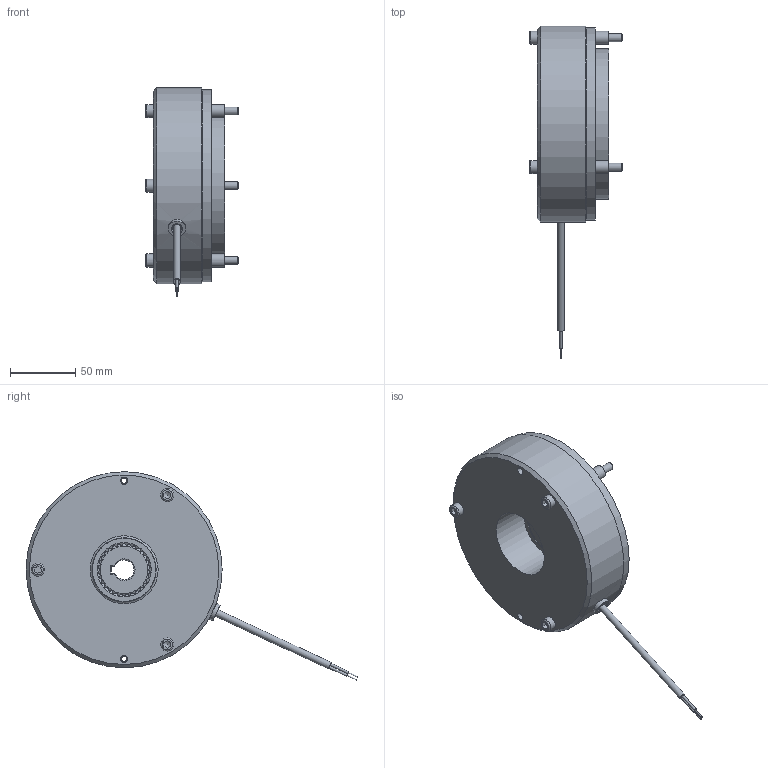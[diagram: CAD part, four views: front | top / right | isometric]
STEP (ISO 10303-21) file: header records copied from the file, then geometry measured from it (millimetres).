
FILE_DESCRIPTION(/* description */ (''),/* implementation_level */ '2;1');
FILE_NAME(/* name */ 'C:\SapWorkDir\Inventor\IP1\ConvertTempPath\5028673_IPT_000.ipt.stp',/* time_stamp */ '2020-09-16T16:00:58+02:00',/* author */ ('STRATE'),/* organization */ (''),/* preprocessor_version */ 'ST-DEVELOPER v17',/* originating_system */ 'Autodesk Inventor 2018',/* authorisation */ '');
FILE_SCHEMA (('AUTOMOTIVE_DESIGN { 1 0 10303 214 3 1 1 }'));
Length unit declared in the file: millimetre
Products named in the file (1): 5028673
Bounding box: 71 x 253.85 x 159.53 mm (x, y, z)
Volume: 798441.8 mm3; surface area: 125199.4 mm2
Topology: 3 solids, 3 shells, 364 faces, 1032 edges, 698 vertices
Faces by surface type: cylinder 282, plane 58, cone 16, torus 8
Full cylindrical faces by diameter (mm): 1 x2, 1.85 x2, 4.134 x2, 5.3 x1, 5.4 x2, 6 x3, 6.4 x3, 6.6 x1, 8.3 x2, 10 x6, 10.8 x6, 13.2 x1, 52 x2, 69.5 x2, 70.1 x2, 115 x1, 147 x1, 150 x1
Entity records: 13323 total; most frequent: CARTESIAN_POINT 3415, ORIENTED_EDGE 2062, DIRECTION 1898, EDGE_CURVE 1031, AXIS2_PLACEMENT_3D 773, VERTEX_POINT 698, EDGE_LOOP 421, CIRCLE 408
